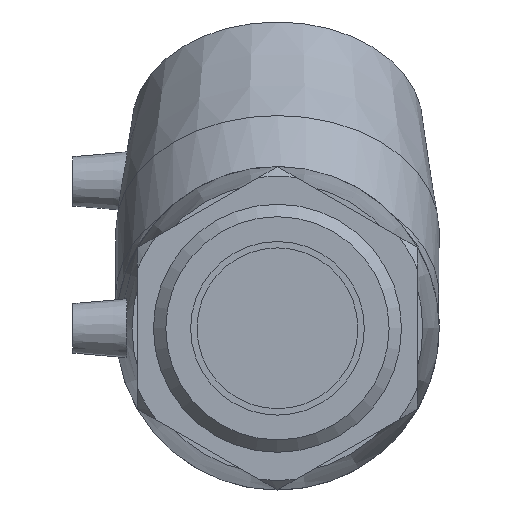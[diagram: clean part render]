
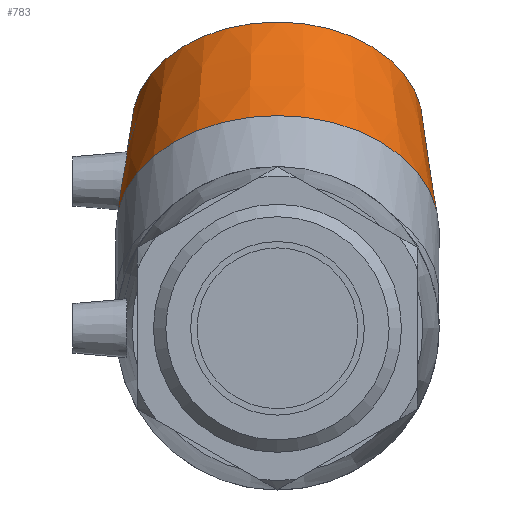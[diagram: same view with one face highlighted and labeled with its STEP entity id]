
A CAD part, left-side view. The second image highlights one B-rep face of the part: STEP entity #783.
In plain terms, the highlighted conical face has half-angle 6.214 degrees and reference radius 46.55 mm.
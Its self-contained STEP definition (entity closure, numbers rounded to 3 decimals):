
#15=B_SPLINE_CURVE_WITH_KNOTS('',3,(#1394,#1395,#1396,#1397,#1398,#1399,
#1400,#1401,#1402,#1403,#1404,#1405,#1406,#1407,#1408,#1409,#1410,#1411,
#1412,#1413,#1414,#1415,#1416,#1417,#1418,#1419,#1420,#1421,#1422,#1423,
#1424,#1425,#1426,#1427),.UNSPECIFIED.,.T.,.F.,(4,2,2,2,2,2,2,2,2,2,2,2,
2,2,2,2,4),(0.,0.329,0.659,0.989,1.32,
1.651,1.982,2.311,2.64,2.985,
3.331,3.67,4.009,4.349,4.688,
5.033,5.378),.UNSPECIFIED.);
#141=FACE_BOUND('',#285,.T.);
#142=FACE_BOUND('',#286,.T.);
#202=FACE_OUTER_BOUND('',#284,.T.);
#284=EDGE_LOOP('',(#689));
#285=EDGE_LOOP('',(#690));
#286=EDGE_LOOP('',(#691));
#347=CIRCLE('',#874,49.);
#351=CIRCLE('',#885,44.1);
#420=VERTEX_POINT('',#1389);
#421=VERTEX_POINT('',#1393);
#425=VERTEX_POINT('',#1439);
#513=EDGE_CURVE('',#420,#420,#347,.T.);
#515=EDGE_CURVE('',#421,#421,#15,.T.);
#519=EDGE_CURVE('',#425,#425,#351,.T.);
#689=ORIENTED_EDGE('',*,*,#513,.F.);
#690=ORIENTED_EDGE('',*,*,#515,.T.);
#691=ORIENTED_EDGE('',*,*,#519,.T.);
#733=CONICAL_SURFACE('',#886,46.55,6.214);
#783=ADVANCED_FACE('',(#202,#141,#142),#733,.T.);
#874=AXIS2_PLACEMENT_3D('',#1390,#1076,#1077);
#885=AXIS2_PLACEMENT_3D('',#1440,#1098,#1099);
#886=AXIS2_PLACEMENT_3D('',#1441,#1100,#1101);
#1076=DIRECTION('center_axis',(-0.707,0.,
-0.707));
#1077=DIRECTION('ref_axis',(-0.707,0.,0.707));
#1098=DIRECTION('center_axis',(-0.707,0.,
-0.707));
#1099=DIRECTION('ref_axis',(-0.707,0.,0.707));
#1100=DIRECTION('center_axis',(-0.707,0.,
-0.707));
#1101=DIRECTION('ref_axis',(0.,1.,0.));
#1389=CARTESIAN_POINT('',(29.822,49.,29.822));
#1390=CARTESIAN_POINT('Origin',(29.822,0.,
29.822));
#1393=CARTESIAN_POINT('',(51.037,45.845,38.438));
#1394=CARTESIAN_POINT('Ctrl Pts',(51.037,45.845,38.438));
#1395=CARTESIAN_POINT('Ctrl Pts',(51.793,45.729,39.225));
#1396=CARTESIAN_POINT('Ctrl Pts',(52.445,45.648,40.219));
#1397=CARTESIAN_POINT('Ctrl Pts',(53.297,45.579,42.387));
#1398=CARTESIAN_POINT('Ctrl Pts',(53.497,45.588,43.562));
#1399=CARTESIAN_POINT('Ctrl Pts',(53.465,45.635,45.761));
#1400=CARTESIAN_POINT('Ctrl Pts',(53.23,45.676,46.934));
#1401=CARTESIAN_POINT('Ctrl Pts',(52.316,45.741,49.091));
#1402=CARTESIAN_POINT('Ctrl Pts',(51.635,45.761,50.076));
#1403=CARTESIAN_POINT('Ctrl Pts',(50.076,45.761,51.635));
#1404=CARTESIAN_POINT('Ctrl Pts',(49.091,45.741,52.316));
#1405=CARTESIAN_POINT('Ctrl Pts',(46.934,45.676,53.23));
#1406=CARTESIAN_POINT('Ctrl Pts',(45.761,45.635,53.465));
#1407=CARTESIAN_POINT('Ctrl Pts',(43.562,45.588,53.497));
#1408=CARTESIAN_POINT('Ctrl Pts',(42.387,45.579,53.297));
#1409=CARTESIAN_POINT('Ctrl Pts',(40.219,45.648,52.445));
#1410=CARTESIAN_POINT('Ctrl Pts',(39.225,45.729,51.793));
#1411=CARTESIAN_POINT('Ctrl Pts',(37.612,45.968,50.245));
#1412=CARTESIAN_POINT('Ctrl Pts',(36.903,46.146,49.236));
#1413=CARTESIAN_POINT('Ctrl Pts',(35.964,46.553,47.021));
#1414=CARTESIAN_POINT('Ctrl Pts',(35.734,46.781,45.814));
#1415=CARTESIAN_POINT('Ctrl Pts',(35.734,47.169,43.566));
#1416=CARTESIAN_POINT('Ctrl Pts',(35.957,47.357,42.373));
#1417=CARTESIAN_POINT('Ctrl Pts',(36.869,47.616,40.169));
#1418=CARTESIAN_POINT('Ctrl Pts',(37.559,47.685,39.159));
#1419=CARTESIAN_POINT('Ctrl Pts',(39.159,47.685,37.559));
#1420=CARTESIAN_POINT('Ctrl Pts',(40.169,47.616,36.869));
#1421=CARTESIAN_POINT('Ctrl Pts',(42.373,47.357,35.957));
#1422=CARTESIAN_POINT('Ctrl Pts',(43.566,47.169,35.734));
#1423=CARTESIAN_POINT('Ctrl Pts',(45.814,46.781,35.734));
#1424=CARTESIAN_POINT('Ctrl Pts',(47.021,46.553,35.964));
#1425=CARTESIAN_POINT('Ctrl Pts',(49.236,46.146,36.903));
#1426=CARTESIAN_POINT('Ctrl Pts',(50.245,45.968,37.612));
#1427=CARTESIAN_POINT('Ctrl Pts',(51.037,45.845,38.438));
#1439=CARTESIAN_POINT('',(61.642,44.1,61.642));
#1440=CARTESIAN_POINT('Origin',(61.642,0.,61.642));
#1441=CARTESIAN_POINT('Origin',(45.732,0.,
45.732));
